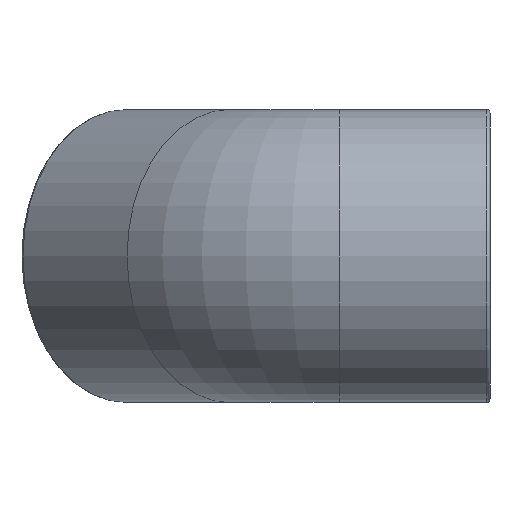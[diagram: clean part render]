
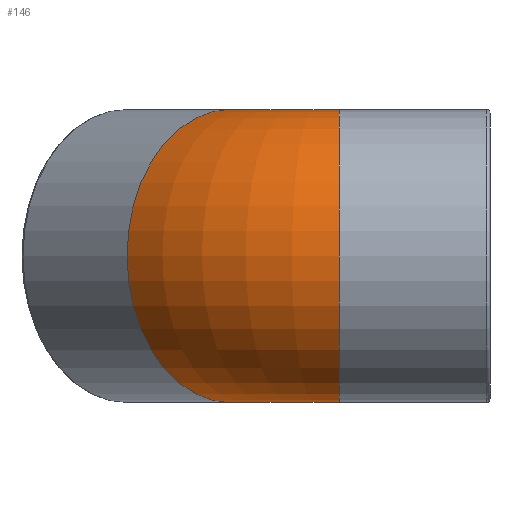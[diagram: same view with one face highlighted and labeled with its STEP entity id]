
A CAD part, left-side view. The second image highlights one B-rep face of the part: STEP entity #146.
In plain terms, the highlighted toroidal (fillet/blend) face has major radius 21.5 mm and minor radius 20.5 mm.
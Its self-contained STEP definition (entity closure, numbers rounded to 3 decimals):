
#36=FACE_BOUND('',#72,.T.);
#48=FACE_OUTER_BOUND('',#71,.T.);
#71=EDGE_LOOP('',(#129));
#72=EDGE_LOOP('',(#130));
#75=CIRCLE('',#153,20.5);
#79=CIRCLE('',#160,20.5);
#85=VERTEX_POINT('',#224);
#89=VERTEX_POINT('',#235);
#97=EDGE_CURVE('',#85,#85,#75,.T.);
#101=EDGE_CURVE('',#89,#89,#79,.T.);
#129=ORIENTED_EDGE('',*,*,#101,.F.);
#130=ORIENTED_EDGE('',*,*,#97,.T.);
#134=TOROIDAL_SURFACE('',#170,21.5,20.5);
#146=ADVANCED_FACE('',(#48,#36),#134,.T.);
#153=AXIS2_PLACEMENT_3D('',#225,#181,#182);
#160=AXIS2_PLACEMENT_3D('',#236,#195,#196);
#170=AXIS2_PLACEMENT_3D('',#383,#215,#216);
#181=DIRECTION('center_axis',(0.,1.,0.));
#182=DIRECTION('ref_axis',(1.,0.,0.));
#195=DIRECTION('center_axis',(0.707,0.707,0.));
#196=DIRECTION('ref_axis',(0.707,-0.707,0.));
#215=DIRECTION('center_axis',(0.,0.,-1.));
#216=DIRECTION('ref_axis',(-1.,0.,0.));
#224=CARTESIAN_POINT('',(-20.5,21.094,0.));
#225=CARTESIAN_POINT('Origin',(0.,21.094,0.));
#235=CARTESIAN_POINT('',(-8.198,50.793,0.));
#236=CARTESIAN_POINT('Origin',(6.297,36.297,0.));
#383=CARTESIAN_POINT('Origin',(21.5,21.094,0.));
